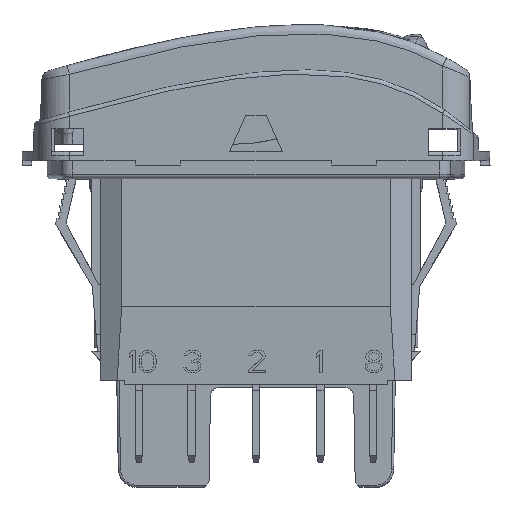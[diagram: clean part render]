
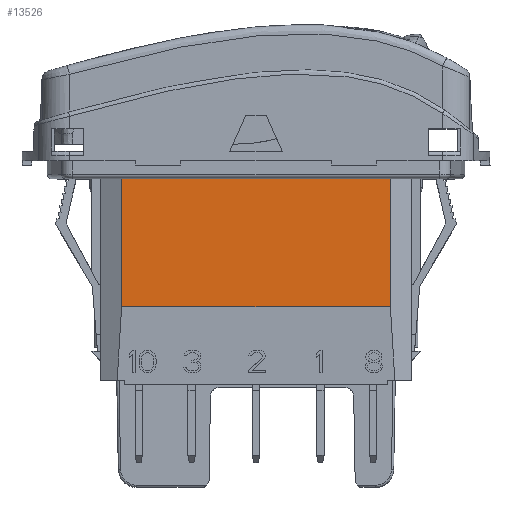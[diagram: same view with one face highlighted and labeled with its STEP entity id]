
A CAD part, top view. The second image highlights one B-rep face of the part: STEP entity #13526.
In plain terms, the highlighted planar face has unit normal (0, 0, 1).
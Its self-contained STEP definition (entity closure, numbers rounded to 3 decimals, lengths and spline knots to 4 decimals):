
#1695=DIRECTION('',(1.,0.,0.));
#1696=VECTOR('',#1695,1.1663);
#1697=CARTESIAN_POINT('',(-0.5831,0.9331,
0.4094));
#1698=LINE('',#1697,#1696);
#1939=DIRECTION('',(0.,1.,0.));
#1940=VECTOR('',#1939,0.6142);
#1941=CARTESIAN_POINT('',(0.5831,0.3189,
0.4094));
#1942=LINE('',#1941,#1940);
#2807=DIRECTION('',(0.,1.,0.));
#2808=VECTOR('',#2807,0.6142);
#2809=CARTESIAN_POINT('',(-0.5831,0.3189,
0.4094));
#2810=LINE('',#2809,#2808);
#2997=DIRECTION('',(1.,0.,0.));
#2998=VECTOR('',#2997,1.1663);
#2999=CARTESIAN_POINT('',(-0.5831,0.3189,
0.4094));
#3000=LINE('',#2999,#2998);
#7997=CARTESIAN_POINT('',(0.5831,0.9331,
0.4094));
#7998=VERTEX_POINT('',#7997);
#8009=CARTESIAN_POINT('',(-0.5831,0.9331,
0.4094));
#8010=VERTEX_POINT('',#8009);
#9823=CARTESIAN_POINT('',(-0.5831,0.3189,
0.4094));
#9824=CARTESIAN_POINT('',(0.5831,0.3189,
0.4094));
#9825=VERTEX_POINT('',#9823);
#9826=VERTEX_POINT('',#9824);
#13515=CARTESIAN_POINT('',(-0.6752,0.,0.4094));
#13516=DIRECTION('',(0.,0.,1.));
#13517=DIRECTION('',(1.,0.,0.));
#13518=AXIS2_PLACEMENT_3D('',#13515,#13516,#13517);
#13519=PLANE('',#13518);
#13520=ORIENTED_EDGE('',*,*,#12746,.F.);
#13521=ORIENTED_EDGE('',*,*,#13222,.T.);
#13522=ORIENTED_EDGE('',*,*,#12348,.T.);
#13523=ORIENTED_EDGE('',*,*,#12730,.F.);
#13524=EDGE_LOOP('',(#13520,#13521,#13522,#13523));
#13525=FACE_OUTER_BOUND('',#13524,.F.);
#13526=ADVANCED_FACE('',(#13525),#13519,.T.);
#12348=EDGE_CURVE('',#8010,#7998,#1698,.T.);
#12730=EDGE_CURVE('',#9826,#7998,#1942,.T.);
#12746=EDGE_CURVE('',#9825,#9826,#3000,.T.);
#13222=EDGE_CURVE('',#9825,#8010,#2810,.T.);
